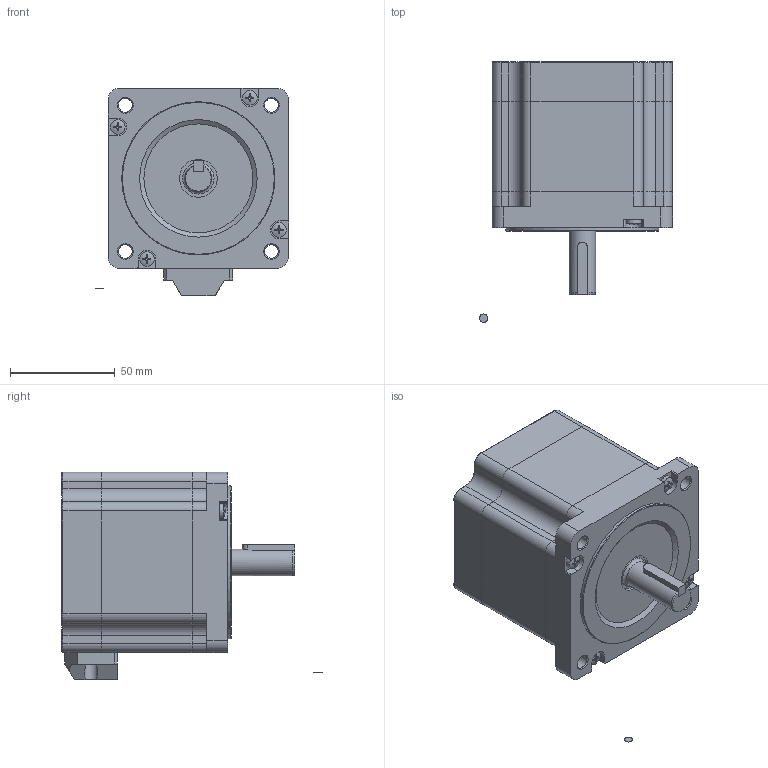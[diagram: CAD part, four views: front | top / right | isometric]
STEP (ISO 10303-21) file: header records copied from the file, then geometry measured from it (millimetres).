
FILE_DESCRIPTION( ('This file contains a STEP AP42 implementation' ,'as created by ZW3D STEP Interface translator.' ,'') ,'2;1' );
FILE_NAME( 'AM510A-86A0450-0000.stp' ,'24 723. 92546', (''), ('ZWCAD Software Co.'), 'Version 1.0', 'ZW3D to STEP translator', '' );
FILE_SCHEMA(('AUTOMOTIVE_DESIGN { 1 0 10303 214 1 1 1 1 }'));
Length unit declared in the file: millimetre
Products named in the file (6): 0; 86HS078TF045X-02; 86HS078TF045X-02(默认); 揤盄啣; 蹟隊 GB_T 823-M4x40_1; 蹟隊 GB_T 823-M3x6
Assembly tree (8 placements, depth 2):
  0
  86HS078TF045X-02
    86HS078TF045X-02(默认)
    揤盄啣
    蹟隊 GB_T 823-M4x40_1  x4
    蹟隊 GB_T 823-M3x6  x2
Bounding box: 91.95 x 124 x 98.9 mm (x, y, z)
Volume: 541401 mm3; surface area: 76496.5 mm2
Topology: 11 solids, 12 shells, 362 faces, 925 edges, 592 vertices
Faces by surface type: plane 152, cylinder 137, cone 46, torus 20, sphere 6, bspline 1
Full cylindrical faces by diameter (mm): 2.5 x4, 3 x4, 3.3 x8, 3.5 x2, 4 x8, 4.5 x4, 5.5 x2, 6.3 x2, 6.5 x4, 7 x4, 12.7 x1, 15 x2, 18 x2, 73 x1
Entity records: 8741 total; most frequent: CARTESIAN_POINT 1573, DIRECTION 1477, ORIENTED_EDGE 1355, EDGE_CURVE 678, AXIS2_PLACEMENT_3D 559, VERTEX_POINT 437, VECTOR 359, LINE 359
